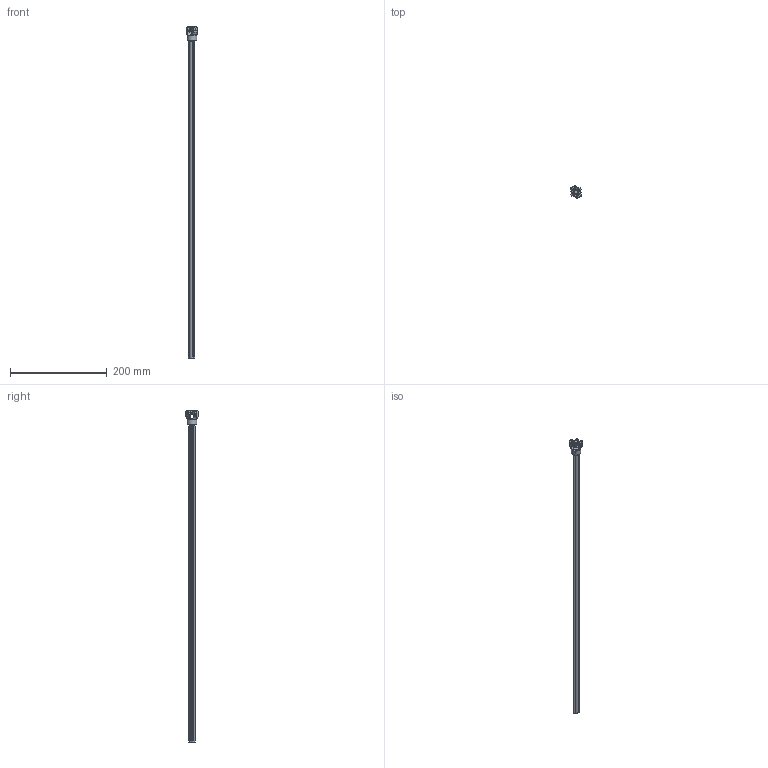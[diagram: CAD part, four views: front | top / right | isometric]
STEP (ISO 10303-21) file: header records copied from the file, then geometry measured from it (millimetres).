
FILE_DESCRIPTION (( 'STEP AP214' ), '1' );
FILE_NAME ('IRB360_X-1600-STD-4D_rev04_MU_CAD.step', '2025-01-27T14:53:15', ( '' ), ( '' ), 'SwSTEP 2.0', 'SolidWorks 2022', '' );
FILE_SCHEMA (( 'AUTOMOTIVE_DESIGN' ));
Length unit declared in the file: millimetre
Products named in the file (1): IRB360_X-1600-STD-4D_rev04_MU_CAD
Bounding box: 22.8 x 25.74 x 684.8 mm (x, y, z)
Volume: 78568 mm3; surface area: 33218.8 mm2
Topology: 5 solids, 5 shells, 157 faces, 374 edges, 230 vertices
Faces by surface type: cylinder 67, torus 39, plane 31, cone 20
Entity records: 5099 total; most frequent: CARTESIAN_POINT 1404, DIRECTION 795, ORIENTED_EDGE 748, EDGE_CURVE 374, AXIS2_PLACEMENT_3D 345, VERTEX_POINT 230, CIRCLE 187, EDGE_LOOP 166
